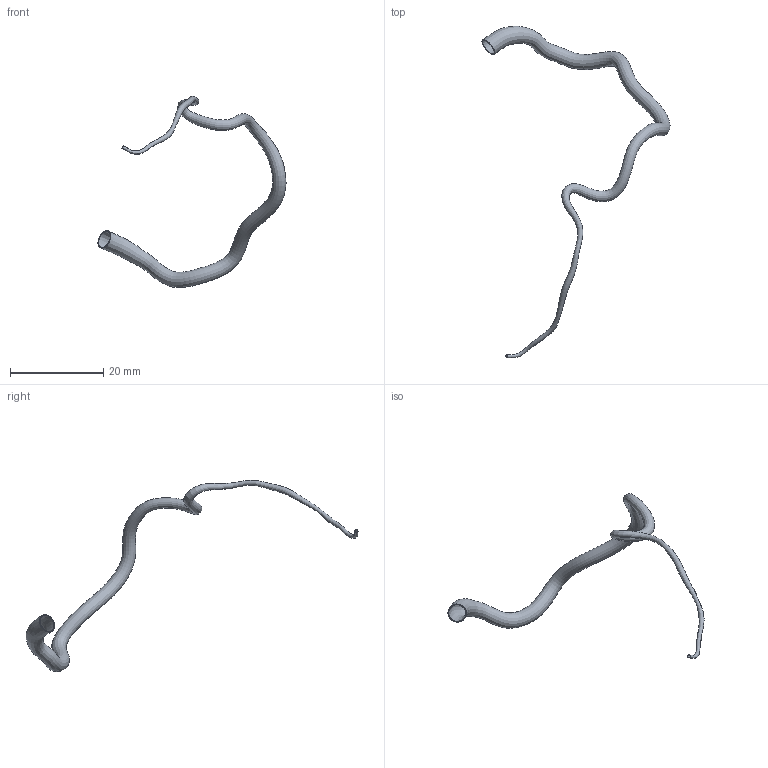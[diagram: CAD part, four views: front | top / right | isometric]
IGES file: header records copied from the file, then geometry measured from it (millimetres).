
Global section: file name: C:\Documents and Settings\Administrator\Desktop\FDA-Pig\Domestic RCA\Pig_000005\rca.seg.es.igs; native system: Rhinoceros ( May 19 2006 ); preprocessor: Trout Lake IGES 012 May 19 2006; date: 111205.185204; units: centimetre
Bounding box: 40.32 x 71.18 x 41.03 mm (x, y, z)
Surface area: 1983.8 mm2 (no closed solid volume)
Topology: 0 solids, 0 shells, 4 faces, 13 edges, 10 vertices
Faces by surface type: bspline 4
